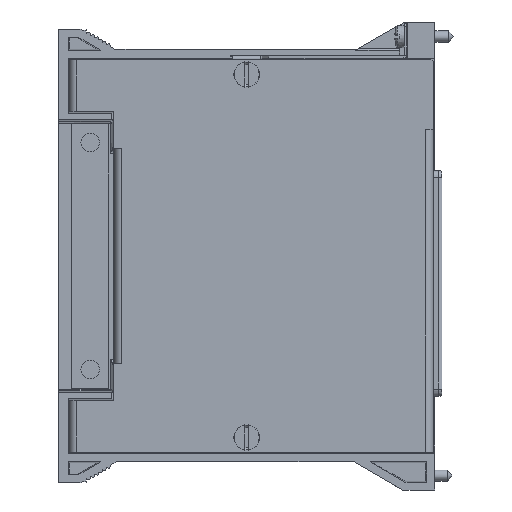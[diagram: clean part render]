
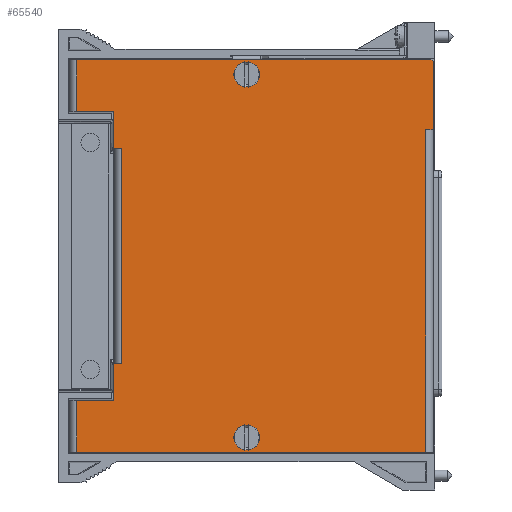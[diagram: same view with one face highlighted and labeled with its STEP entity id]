
A CAD part, top view. The second image highlights one B-rep face of the part: STEP entity #65540.
In plain terms, the highlighted planar face has unit normal (0, 0, 1).
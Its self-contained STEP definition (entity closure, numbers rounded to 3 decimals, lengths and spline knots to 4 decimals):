
#22611=DIRECTION('',(0.,1.,0.));
#22612=VECTOR('',#22611,0.3225);
#22613=CARTESIAN_POINT('',(-2.8275,-1.2725,0.368));
#22614=LINE('',#22613,#22612);
#22615=DIRECTION('',(-1.,0.,0.));
#22616=VECTOR('',#22615,0.067);
#22617=CARTESIAN_POINT('',(-2.7605,-0.95,0.368));
#22618=LINE('',#22617,#22616);
#22619=DIRECTION('',(-1.,0.,0.));
#22620=VECTOR('',#22619,0.067);
#22621=CARTESIAN_POINT('',(-2.7605,0.95,0.368));
#22622=LINE('',#22621,#22620);
#22623=DIRECTION('',(0.,1.,0.));
#22624=VECTOR('',#22623,0.3225);
#22625=CARTESIAN_POINT('',(-2.8275,0.95,0.368));
#22626=LINE('',#22625,#22624);
#22627=DIRECTION('',(1.,0.,0.));
#22628=VECTOR('',#22627,0.328);
#22629=CARTESIAN_POINT('',(-3.1555,1.2725,0.368));
#22630=LINE('',#22629,#22628);
#22631=DIRECTION('',(-1.,0.,0.));
#22632=VECTOR('',#22631,3.123);
#22633=CARTESIAN_POINT('',(-0.0325,1.73,0.368));
#22634=LINE('',#22633,#22632);
#22635=DIRECTION('',(0.,1.,0.));
#22636=VECTOR('',#22635,0.595);
#22637=CARTESIAN_POINT('',(-0.0125,1.115,0.368));
#22638=LINE('',#22637,#22636);
#22639=DIRECTION('',(1.,0.,0.));
#22640=VECTOR('',#22639,0.067);
#22641=CARTESIAN_POINT('',(-0.0795,1.115,0.368));
#22642=LINE('',#22641,#22640);
#22643=DIRECTION('',(1.,0.,0.));
#22644=VECTOR('',#22643,3.076);
#22645=CARTESIAN_POINT('',(-3.1555,-1.73,0.368));
#22646=LINE('',#22645,#22644);
#22647=DIRECTION('',(1.,0.,0.));
#22648=VECTOR('',#22647,0.328);
#22649=CARTESIAN_POINT('',(-3.1555,-1.2725,0.368));
#22650=LINE('',#22649,#22648);
#22651=CARTESIAN_POINT('',(-1.6563,-1.6,0.368));
#22652=DIRECTION('',(0.,0.,-1.));
#22653=DIRECTION('',(-0.159,0.987,0.));
#22654=AXIS2_PLACEMENT_3D('',#22651,#22652,#22653);
#22656=CARTESIAN_POINT('',(-1.6563,-1.6,0.368));
#22657=DIRECTION('',(0.,0.,-1.));
#22658=DIRECTION('',(0.159,-0.987,0.));
#22659=AXIS2_PLACEMENT_3D('',#22656,#22657,#22658);
#22661=CARTESIAN_POINT('',(-1.6563,1.6,0.368));
#22662=DIRECTION('',(0.,0.,1.));
#22663=DIRECTION('',(0.159,0.987,0.));
#22664=AXIS2_PLACEMENT_3D('',#22661,#22662,#22663);
#22666=CARTESIAN_POINT('',(-1.6563,1.6,0.368));
#22667=DIRECTION('',(0.,0.,1.));
#22668=DIRECTION('',(-0.159,-0.987,0.));
#22669=AXIS2_PLACEMENT_3D('',#22666,#22667,#22668);
#22680=DIRECTION('',(0.,-1.,0.));
#22681=VECTOR('',#22680,1.9);
#22682=CARTESIAN_POINT('',(-2.7605,0.95,0.368));
#22683=LINE('',#22682,#22681);
#22819=DIRECTION('',(0.,1.,0.));
#22820=VECTOR('',#22819,0.4575);
#22821=CARTESIAN_POINT('',(-3.1555,1.2725,0.368));
#22822=LINE('',#22821,#22820);
#22911=DIRECTION('',(-0.707,0.707,0.));
#22912=VECTOR('',#22911,0.0283);
#22913=CARTESIAN_POINT('',(-0.0125,1.71,0.368));
#22914=LINE('',#22913,#22912);
#23012=DIRECTION('',(0.,-1.,0.));
#23013=VECTOR('',#23012,2.845);
#23014=CARTESIAN_POINT('',(-0.0795,1.115,0.368));
#23015=LINE('',#23014,#23013);
#23212=DIRECTION('',(0.,1.,0.));
#23213=VECTOR('',#23212,0.4575);
#23214=CARTESIAN_POINT('',(-3.1555,-1.73,0.368));
#23215=LINE('',#23214,#23213);
#23434=CARTESIAN_POINT('',(-1.6738,-1.4914,0.368));
#23436=CARTESIAN_POINT('',(-1.6388,-1.4914,0.368));
#23461=CARTESIAN_POINT('',(-1.6388,-1.7086,0.368));
#23463=CARTESIAN_POINT('',(-1.6738,-1.7086,0.368));
#23487=CARTESIAN_POINT('',(-1.6563,-1.6,0.368));
#23488=DIRECTION('',(0.,0.,-1.));
#23489=DIRECTION('',(0.159,0.987,0.));
#23490=AXIS2_PLACEMENT_3D('',#23487,#23488,#23489);
#23508=CARTESIAN_POINT('',(-1.6563,-1.6,0.368));
#23509=DIRECTION('',(0.,0.,-1.));
#23510=DIRECTION('',(-0.159,-0.987,0.));
#23511=AXIS2_PLACEMENT_3D('',#23508,#23509,#23510);
#23527=CARTESIAN_POINT('',(-1.6738,1.7086,0.368));
#23539=CARTESIAN_POINT('',(-1.6388,1.7086,0.368));
#23566=CARTESIAN_POINT('',(-1.6563,1.6,0.368));
#23567=DIRECTION('',(0.,0.,-1.));
#23568=DIRECTION('',(0.159,0.987,0.));
#23569=AXIS2_PLACEMENT_3D('',#23566,#23567,#23568);
#23580=CARTESIAN_POINT('',(-1.6388,1.4914,0.368));
#23592=CARTESIAN_POINT('',(-1.6738,1.4914,0.368));
#23606=CARTESIAN_POINT('',(-1.6563,1.6,0.368));
#23607=DIRECTION('',(0.,0.,-1.));
#23608=DIRECTION('',(-0.159,-0.987,0.));
#23609=AXIS2_PLACEMENT_3D('',#23606,#23607,#23608);
#32587=CARTESIAN_POINT('',(-3.1555,1.73,0.368));
#32589=VERTEX_POINT('',#32587);
#32591=CARTESIAN_POINT('',(-3.1555,-1.73,0.368));
#32593=VERTEX_POINT('',#32591);
#32602=CARTESIAN_POINT('',(-3.1555,-1.2725,0.368));
#32603=CARTESIAN_POINT('',(-2.8275,-1.2725,0.368));
#32604=VERTEX_POINT('',#32602);
#32605=VERTEX_POINT('',#32603);
#32606=CARTESIAN_POINT('',(-3.1555,1.2725,0.368));
#32607=CARTESIAN_POINT('',(-2.8275,1.2725,0.368));
#32608=VERTEX_POINT('',#32606);
#32609=VERTEX_POINT('',#32607);
#32646=CARTESIAN_POINT('',(-0.0795,1.115,0.368));
#32647=CARTESIAN_POINT('',(-0.0125,1.115,0.368));
#32648=VERTEX_POINT('',#32646);
#32649=VERTEX_POINT('',#32647);
#32658=CARTESIAN_POINT('',(-0.0795,-1.73,0.368));
#32659=VERTEX_POINT('',#32658);
#32666=CARTESIAN_POINT('',(-2.7605,0.95,0.368));
#32667=CARTESIAN_POINT('',(-2.8275,0.95,0.368));
#32668=VERTEX_POINT('',#32666);
#32669=VERTEX_POINT('',#32667);
#32674=CARTESIAN_POINT('',(-2.7605,-0.95,0.368));
#32675=CARTESIAN_POINT('',(-2.8275,-0.95,0.368));
#32676=VERTEX_POINT('',#32674);
#32677=VERTEX_POINT('',#32675);
#32750=CARTESIAN_POINT('',(-0.0125,1.71,0.368));
#32751=CARTESIAN_POINT('',(-0.0325,1.73,0.368));
#32752=VERTEX_POINT('',#32750);
#32753=VERTEX_POINT('',#32751);
#32860=VERTEX_POINT('',#23461);
#32861=VERTEX_POINT('',#23463);
#32866=VERTEX_POINT('',#23436);
#32867=VERTEX_POINT('',#23434);
#32904=VERTEX_POINT('',#23539);
#32905=VERTEX_POINT('',#23527);
#32910=VERTEX_POINT('',#23580);
#32911=VERTEX_POINT('',#23592);
#65487=CARTESIAN_POINT('',(-3.2225,0.,0.368));
#65488=DIRECTION('',(0.,0.,1.));
#65489=DIRECTION('',(1.,0.,0.));
#65490=AXIS2_PLACEMENT_3D('',#65487,#65488,#65489);
#65491=PLANE('',#65490);
#65492=ORIENTED_EDGE('',*,*,#35276,.T.);
#65493=ORIENTED_EDGE('',*,*,#65478,.F.);
#65495=ORIENTED_EDGE('',*,*,#65494,.F.);
#65497=ORIENTED_EDGE('',*,*,#65496,.T.);
#65498=ORIENTED_EDGE('',*,*,#35147,.T.);
#65500=ORIENTED_EDGE('',*,*,#65499,.F.);
#65502=ORIENTED_EDGE('',*,*,#65501,.T.);
#65503=ORIENTED_EDGE('',*,*,#34789,.F.);
#65505=ORIENTED_EDGE('',*,*,#65504,.F.);
#65507=ORIENTED_EDGE('',*,*,#65506,.F.);
#65509=ORIENTED_EDGE('',*,*,#65508,.F.);
#65511=ORIENTED_EDGE('',*,*,#65510,.T.);
#65513=ORIENTED_EDGE('',*,*,#65512,.F.);
#65515=ORIENTED_EDGE('',*,*,#65514,.T.);
#65517=ORIENTED_EDGE('',*,*,#65516,.T.);
#65518=EDGE_LOOP('',(#65492,#65493,#65495,#65497,#65498,#65500,#65502,#65503,
#65505,#65507,#65509,#65511,#65513,#65515,#65517));
#65519=FACE_OUTER_BOUND('',#65518,.F.);
#65521=ORIENTED_EDGE('',*,*,#65520,.F.);
#65523=ORIENTED_EDGE('',*,*,#65522,.F.);
#65525=ORIENTED_EDGE('',*,*,#65524,.F.);
#65527=ORIENTED_EDGE('',*,*,#65526,.F.);
#65528=EDGE_LOOP('',(#65521,#65523,#65525,#65527));
#65529=FACE_BOUND('',#65528,.F.);
#65531=ORIENTED_EDGE('',*,*,#65530,.T.);
#65533=ORIENTED_EDGE('',*,*,#65532,.F.);
#65535=ORIENTED_EDGE('',*,*,#65534,.T.);
#65537=ORIENTED_EDGE('',*,*,#65536,.F.);
#65538=EDGE_LOOP('',(#65531,#65533,#65535,#65537));
#65539=FACE_BOUND('',#65538,.F.);
#65540=ADVANCED_FACE('',(#65519,#65529,#65539),#65491,.T.);
#22655=CIRCLE('',#22654,0.11);
#22660=CIRCLE('',#22659,0.11);
#22665=CIRCLE('',#22664,0.11);
#22670=CIRCLE('',#22669,0.11);
#23491=CIRCLE('',#23490,0.11);
#23512=CIRCLE('',#23511,0.11);
#23570=CIRCLE('',#23569,0.11);
#23610=CIRCLE('',#23609,0.11);
#34789=EDGE_CURVE('',#32753,#32589,#22634,.T.);
#35147=EDGE_CURVE('',#32669,#32609,#22626,.T.);
#35276=EDGE_CURVE('',#32605,#32677,#22614,.T.);
#65478=EDGE_CURVE('',#32676,#32677,#22618,.T.);
#65494=EDGE_CURVE('',#32668,#32676,#22683,.T.);
#65496=EDGE_CURVE('',#32668,#32669,#22622,.T.);
#65499=EDGE_CURVE('',#32608,#32609,#22630,.T.);
#65501=EDGE_CURVE('',#32608,#32589,#22822,.T.);
#65504=EDGE_CURVE('',#32752,#32753,#22914,.T.);
#65506=EDGE_CURVE('',#32649,#32752,#22638,.T.);
#65508=EDGE_CURVE('',#32648,#32649,#22642,.T.);
#65510=EDGE_CURVE('',#32648,#32659,#23015,.T.);
#65512=EDGE_CURVE('',#32593,#32659,#22646,.T.);
#65514=EDGE_CURVE('',#32593,#32604,#23215,.T.);
#65516=EDGE_CURVE('',#32604,#32605,#22650,.T.);
#65520=EDGE_CURVE('',#32867,#32866,#22655,.T.);
#65522=EDGE_CURVE('',#32861,#32867,#23512,.T.);
#65524=EDGE_CURVE('',#32860,#32861,#22660,.T.);
#65526=EDGE_CURVE('',#32866,#32860,#23491,.T.);
#65530=EDGE_CURVE('',#32904,#32905,#22665,.T.);
#65532=EDGE_CURVE('',#32911,#32905,#23610,.T.);
#65534=EDGE_CURVE('',#32911,#32910,#22670,.T.);
#65536=EDGE_CURVE('',#32904,#32910,#23570,.T.);
